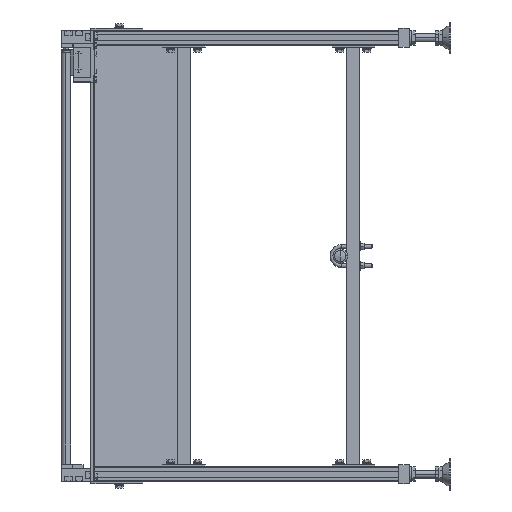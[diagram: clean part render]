
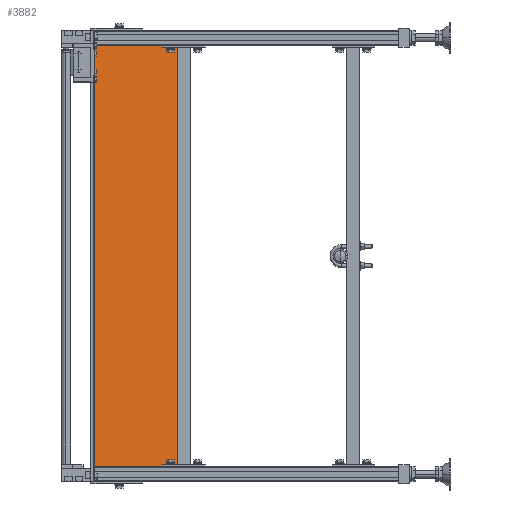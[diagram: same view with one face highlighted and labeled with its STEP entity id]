
A CAD part, left-side view. The second image highlights one B-rep face of the part: STEP entity #3882.
In plain terms, the highlighted planar face has unit normal (-0.993, -0.116, 0).
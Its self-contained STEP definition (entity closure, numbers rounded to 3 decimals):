
#3882=ADVANCED_FACE('',(#23877),#23876,.F.);
#23876=PLANE('',#46791);
#23877=FACE_OUTER_BOUND('',#46792,.T.);
#46788=CARTESIAN_POINT('',(809.662,-244.932,-420.));
#46789=DIRECTION('',(0.993,0.116,0.));
#46790=DIRECTION('',(-0.116,0.993,0.));
#46791=AXIS2_PLACEMENT_3D('',#46788,#46789,#46790);
#46792=EDGE_LOOP('',(#62038,#62039,#62040,#62041));
#62038=ORIENTED_EDGE('',*,*,#71874,.T.);
#62039=ORIENTED_EDGE('',*,*,#71884,.F.);
#62040=ORIENTED_EDGE('',*,*,#71865,.F.);
#62041=ORIENTED_EDGE('',*,*,#71921,.T.);
#71865=EDGE_CURVE('',#104722,#104729,#104730,.T.);
#71874=EDGE_CURVE('',#104771,#104785,#104792,.T.);
#71884=EDGE_CURVE('',#104729,#104785,#104860,.T.);
#71921=EDGE_CURVE('',#104722,#104771,#105116,.T.);
#104722=VERTEX_POINT('',#140343);
#104729=VERTEX_POINT('',#140347);
#104730=LINE('',#140348,#140349);
#104771=VERTEX_POINT('',#140371);
#104785=VERTEX_POINT('',#140379);
#104792=LINE('',#140383,#140384);
#104860=LINE('',#140421,#140422);
#105116=LINE('',#140566,#140567);
#140343=CARTESIAN_POINT('',(788.5,-64.,410.));
#140347=CARTESIAN_POINT('',(808.5,-235.,410.));
#140348=CARTESIAN_POINT('',(788.5,-64.,410.));
#140349=VECTOR('',#140350,172.166);
#140350=DIRECTION('',(0.116,-0.993,0.));
#140371=CARTESIAN_POINT('',(788.5,-64.,-410.));
#140379=CARTESIAN_POINT('',(808.5,-235.,-410.));
#140383=CARTESIAN_POINT('',(788.5,-64.,-410.));
#140384=VECTOR('',#140385,172.166);
#140385=DIRECTION('',(0.116,-0.993,0.));
#140421=CARTESIAN_POINT('',(808.5,-235.,410.));
#140422=VECTOR('',#140423,820.);
#140423=DIRECTION('',(0.,0.,-1.));
#140566=CARTESIAN_POINT('',(788.5,-64.,410.));
#140567=VECTOR('',#140568,820.);
#140568=DIRECTION('',(0.,0.,-1.));
